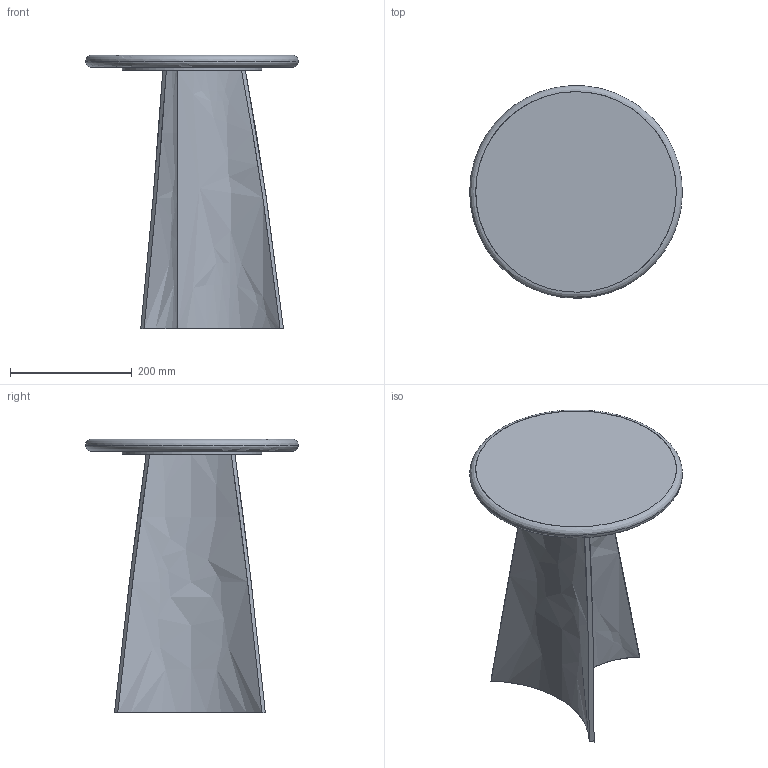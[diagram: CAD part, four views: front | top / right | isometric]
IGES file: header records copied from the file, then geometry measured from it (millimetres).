
Global section: file name: C:\Users\m.salvetti\Desktop\ssssssss.igs; native system: Rhinoceros ( Sep 25 2023 ); preprocessor: Trout Lake IGES 012 Sep 25 2023; date: 231128.161643; units: millimetre
Bounding box: 349.94 x 349.59 x 450.37 mm (x, y, z)
Surface area: 619341.4 mm2 (no closed solid volume)
Topology: 0 solids, 0 shells, 17 faces, 86 edges, 83 vertices
Faces by surface type: bspline 17
